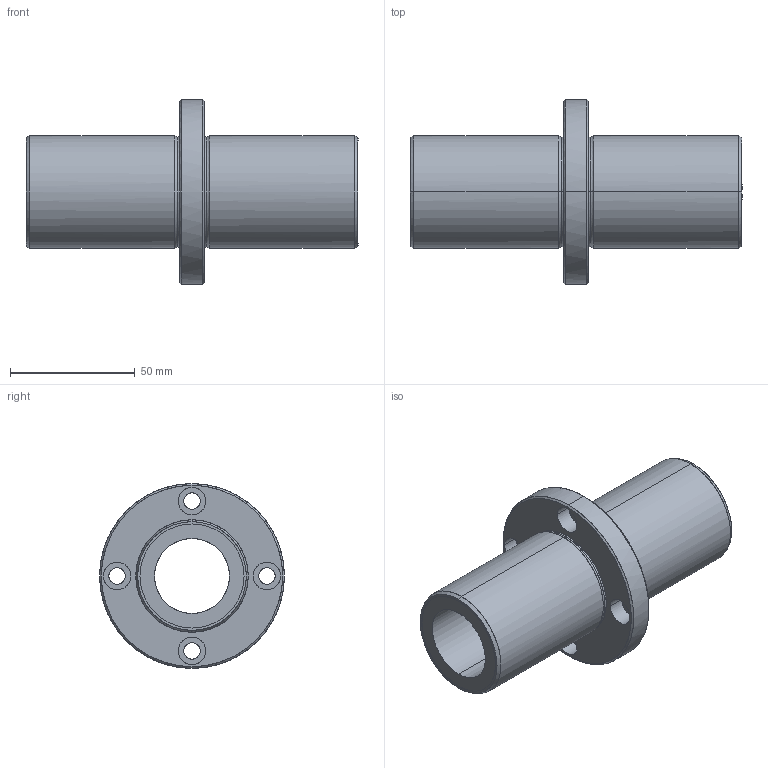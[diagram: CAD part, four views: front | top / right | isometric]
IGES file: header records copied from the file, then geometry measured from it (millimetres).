
Global section: file name: No Iges File Name specified; native system: AutoDesk Inventor R10; preprocessor: AutoDesk Inventor Iges Exporter R10; author: No Author specified; organization: No Organization specified; date: 20101216.153311; units: millimetre
Bounding box: 133 x 74 x 74 mm (x, y, z)
Surface area: 40138.5 mm2 (no closed solid volume)
Topology: 0 solids, 0 shells, 54 faces, 376 edges, 376 vertices
Faces by surface type: bspline 54
